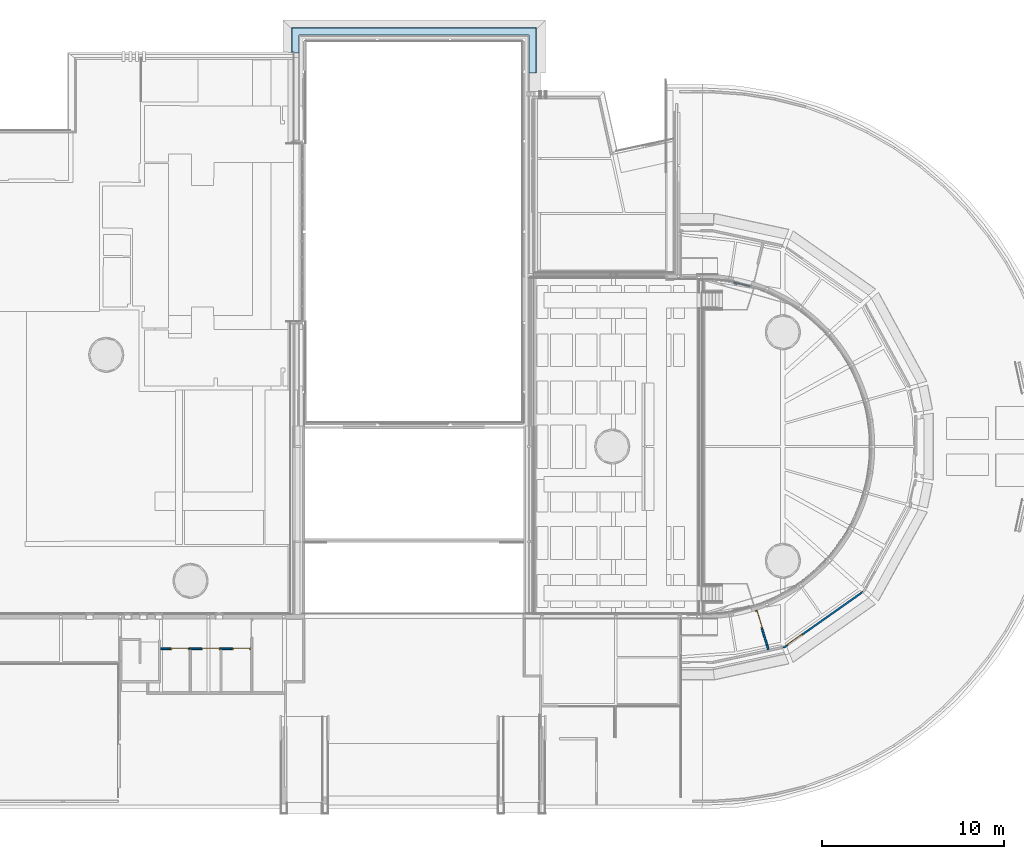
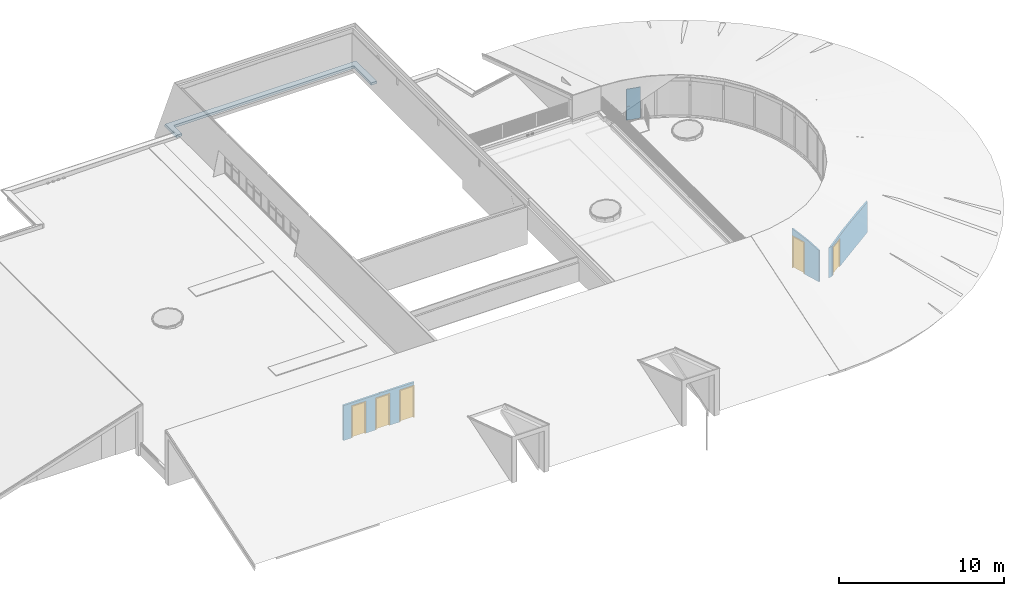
# One storey, part 46 of 66: 5 doors, 3 walls, 1 plate, 1 slab, 5 openings, 1 element without a shape of its own.
"""IFC2X3 building model written with IfcOpenShell, lengths in millimetres."""

from ifc_helpers import new_model, entity, si_unit, converted_unit, derived_unit, direction, frame, frame_2d, origin, place, context, subcontext, project, spatial, rectangle, extrude, faceted_brep, source, transform, mapped, material, material_list, layer, layer_set, type_object, type_shapes, element, fill, aggregate, save


model = new_model("IFC2X3")

# Units and contexts
model_context = context("Model", 3, precision=0.01, world=origin(), true_north=direction((6.12303176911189e-17, 1.0)))
body_context = subcontext(model_context, "Body", "Model", "MODEL_VIEW")
ifc_project = project(units=[si_unit("LENGTHUNIT", "METRE", prefix="MILLI"), si_unit("AREAUNIT", "SQUARE_METRE"), si_unit("VOLUMEUNIT", "CUBIC_METRE"), converted_unit("PLANEANGLEUNIT", "DEGREE", entity("IfcRatioMeasure", 0.0174532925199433), si_unit("PLANEANGLEUNIT", "RADIAN"), dimensions=[0, 0, 0, 0, 0, 0, 0]), si_unit("MASSUNIT", "GRAM", prefix="KILO"), derived_unit("MASSDENSITYUNIT", [(si_unit("MASSUNIT", "GRAM", prefix="KILO"), 1), (si_unit("LENGTHUNIT", "METRE"), -3)]), derived_unit("MOMENTOFINERTIAUNIT", [(si_unit("LENGTHUNIT", "METRE"), 4)]), si_unit("TIMEUNIT", "SECOND"), si_unit("FREQUENCYUNIT", "HERTZ"), si_unit("THERMODYNAMICTEMPERATUREUNIT", "DEGREE_CELSIUS"), derived_unit("THERMALTRANSMITTANCEUNIT", [(si_unit("MASSUNIT", "GRAM", prefix="KILO"), 1), (si_unit("THERMODYNAMICTEMPERATUREUNIT", "KELVIN"), -1), (si_unit("TIMEUNIT", "SECOND"), -3)]), derived_unit("VOLUMETRICFLOWRATEUNIT", [(si_unit("LENGTHUNIT", "METRE"), 3), (si_unit("TIMEUNIT", "SECOND"), -1)]), si_unit("ELECTRICCURRENTUNIT", "AMPERE"), si_unit("ELECTRICVOLTAGEUNIT", "VOLT"), si_unit("POWERUNIT", "WATT"), si_unit("FORCEUNIT", "NEWTON", prefix="KILO"), si_unit("ILLUMINANCEUNIT", "LUX"), si_unit("LUMINOUSFLUXUNIT", "LUMEN"), si_unit("LUMINOUSINTENSITYUNIT", "CANDELA"), derived_unit("USERDEFINED", [(si_unit("MASSUNIT", "GRAM", prefix="KILO"), -1), (si_unit("LENGTHUNIT", "METRE"), -2), (si_unit("TIMEUNIT", "SECOND"), 3), (si_unit("LUMINOUSFLUXUNIT", "LUMEN"), 1)]), derived_unit("LINEARVELOCITYUNIT", [(si_unit("LENGTHUNIT", "METRE"), 1), (si_unit("TIMEUNIT", "SECOND"), -1)]), si_unit("PRESSUREUNIT", "PASCAL"), derived_unit("USERDEFINED", [(si_unit("LENGTHUNIT", "METRE"), -2), (si_unit("MASSUNIT", "GRAM", prefix="KILO"), 1), (si_unit("TIMEUNIT", "SECOND"), -2)]), derived_unit("LINEARFORCEUNIT", [(si_unit("MASSUNIT", "GRAM", prefix="KILO"), 1), (si_unit("LENGTHUNIT", "METRE"), 1), (si_unit("TIMEUNIT", "SECOND"), -2), (si_unit("LENGTHUNIT", "METRE"), -1)]), derived_unit("PLANARFORCEUNIT", [(si_unit("MASSUNIT", "GRAM", prefix="KILO"), 1), (si_unit("LENGTHUNIT", "METRE"), 1), (si_unit("TIMEUNIT", "SECOND"), -2), (si_unit("LENGTHUNIT", "METRE"), -2)])], contexts=[model_context])

# Site, building, storey
site_placement = place(None, origin())
site = spatial("IfcSite", under=ifc_project, at=site_placement, Name="Default", CompositionType="ELEMENT")
building_placement = place(site_placement, origin())
building = spatial("IfcBuilding", under=site, at=building_placement, Name="-", CompositionType="ELEMENT")
storey_placement = place(building_placement, frame((0.0, 0.0, 3070.0)))
storey = spatial("IfcBuildingStorey", under=building, at=storey_placement, Name="01 eerste verdieping", CompositionType="ELEMENT", Elevation=3070.00000000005)

# Slab
slab_type = type_object("IfcSlabType", Name="Floor:NLRS_23_FL_basisvloer 180mm_gen_aly", PredefinedType="FLOOR")
slab_placement = place(storey_placement, origin())
element("IfcSlab", 1, at=slab_placement, inside=storey, type_object=slab_type, Name="Floor:NLRS_23_FL_basisvloer 180mm_gen_aly", ObjectType="Floor:NLRS_23_FL_basisvloer 180mm_gen_aly", PredefinedType="FLOOR", context=body_context, shape_type="Brep", body=[
    faceted_brep([(28454.0, 42225.3202504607, 65.0), (28454.0, 41238.7541561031, 65.0), (28044.0, 41238.7541561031, 65.0), (28044.0, 42655.3202504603, 65.0), (41513.0668104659, 42655.3202504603, 65.0), (41513.0668104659, 40131.8575638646, 65.0), (41093.0668104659, 40131.8575638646, 65.0), (41093.0668104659, 42225.3202504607, 65.0), (28454.0, 41238.7541561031, 245.0), (28454.0, 42225.3202504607, 245.0), (41093.0668104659, 42225.3202504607, 245.0), (41093.0668104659, 40131.8575638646, 245.0), (41477.807807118, 40131.8575638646, 245.0), (41477.807807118, 42623.6280575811, 245.0), (28076.1921928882, 42623.6280575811, 245.0), (28076.1921928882, 41238.7541561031, 245.0), (28052.5860830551, 41238.7541561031, 130.0), (28044.0, 41238.7541561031, 130.0), (28044.0, 41255.8202504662, 130.0), (28044.0, 41255.8202504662, 88.171864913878), (28044.0, 42655.3202504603, 88.1718649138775), (28044.5000000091, 42655.3202504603, 90.6076750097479), (41509.4999999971, 42655.3202504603, 90.6076750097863), (41513.0668104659, 42655.3202504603, 73.2315293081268), (41513.0668104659, 40131.8575638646, 73.2315293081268), (28052.5860830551, 41255.8202504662, 130.0)], [[[0, 1, 2, 3, 4, 5, 6, 7]], [[8, 9, 10, 11, 12, 13, 14, 15]], [[1, 0, 9, 8]], [[2, 1, 8, 15, 16, 17]], [[3, 2, 17, 18, 19, 20]], [[4, 3, 20, 21, 22, 23]], [[5, 4, 23, 24]], [[7, 6, 11, 10]], [[0, 7, 10, 9]], [[22, 13, 12, 24, 23]], [[13, 22, 21, 14]], [[14, 21, 20, 19, 25, 16, 15]], [[6, 5, 24, 12, 11]], [[16, 25, 18, 17]], [[25, 19, 18]]]),
])

# Curtain wall, plate
curtain_wall_type = type_object("IfcCurtainWallType", Name="Curtain Wall:NLRS_31_WIN_UN_houten kozijn vrij indeelbaar_gen_aly", PredefinedType="NOTDEFINED")
curtain_wall_placement = place(storey_placement, frame((0.0, 0.0, -3070.0)))
curtain_wall = element("IfcCurtainWall", 2, at=curtain_wall_placement, inside=storey, type_object=curtain_wall_type, Name="Curtain Wall:NLRS_31_WIN_UN_houten kozijn vrij indeelbaar_gen_aly", ObjectType="Curtain Wall:NLRS_31_WIN_UN_houten kozijn vrij indeelbaar_gen_aly")
ifc_material_1 = material(Name="NLRS_h4_aluminium")
ifc_material_2 = material(Name="AL_31_KozijnHout hardhout Antraciet")
ifc_material_list_1 = material_list([ifc_material_1, ifc_material_2])
ifc_material_list_2 = material_list([ifc_material_1, ifc_material_2])
plate_type = type_object("IfcPlateType", Name="NLRS_31_CWP_achterdeur zonder glas_gen_aly:31_Achterdeur zonder glas antraciet", PredefinedType="CURTAIN_PANEL", material=ifc_material_list_2)
shared_shape_1 = source(origin(), body_context, "Body", "Brep", [
    faceted_brep([(-419.704819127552, -52.035547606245, 1041.33974596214), (-424.704819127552, -52.035547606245, 1050.0), (-427.204819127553, -52.035547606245, 1028.34936490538), (-409.704819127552, -52.035547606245, 1041.33974596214), (-430.329819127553, -52.035547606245, 1033.76202367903), (-433.454819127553, -52.035547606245, 1039.17468245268), (-436.579819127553, -52.035547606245, 1044.58734122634), (-439.704819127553, -52.035547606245, 1050.0), (-419.704819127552, -52.035547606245, 1058.66025403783), (-437.099872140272, -52.035547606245, 1054.51190053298), (-434.49492515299, -52.035547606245, 1059.02380106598), (-430.849872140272, -52.035547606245, 1065.33721808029), (-427.204819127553, -52.035547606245, 1071.6506350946), (-409.704819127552, -52.035547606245, 1058.66025403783), (-420.954819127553, -52.035547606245, 1071.6506350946), (-414.704819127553, -52.035547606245, 1071.6506350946), (-408.454819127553, -52.035547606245, 1071.6506350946), (-402.204819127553, -52.035547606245, 1071.6506350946), (-399.079819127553, -52.035547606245, 1066.23797632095), (-395.954819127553, -52.035547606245, 1060.82531754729), (-392.829819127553, -52.035547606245, 1055.41265877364), (-389.704819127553, -52.035547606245, 1050.0), (-404.704819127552, -52.035547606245, 1050.0), (-402.204819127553, -52.035547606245, 1028.34936490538), (-398.559766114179, -52.035547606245, 1034.66278192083), (-394.914713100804, -52.035547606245, 1040.97619893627), (-392.309766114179, -52.035547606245, 1045.48809946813), (-420.954819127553, -52.035547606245, 1028.34936490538), (-414.704819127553, -52.035547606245, 1028.34936490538), (-408.454819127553, -52.035547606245, 1028.34936490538), (-419.704819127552, -44.0, 1058.66025403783), (-424.704819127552, -44.0, 1050.0), (-427.204819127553, -44.0, 1071.6506350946), (-409.704819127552, -44.0, 1058.66025403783), (-430.329819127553, -44.0, 1066.23797632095), (-433.454819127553, -44.0, 1060.82531754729), (-436.579819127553, -44.0, 1055.41265877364), (-439.704819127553, -44.0, 1050.0), (-419.704819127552, -44.0, 1041.33974596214), (-437.099872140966, -44.0, 1045.4880994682), (-433.454819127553, -44.0, 1039.17468245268), (-430.329819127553, -44.0, 1033.76202367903), (-427.204819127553, -44.0, 1028.34936490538), (-409.704819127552, -44.0, 1041.33974596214), (-420.954819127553, -44.0, 1028.34936490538), (-414.704819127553, -44.0, 1028.34936490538), (-408.454819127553, -44.0, 1028.34936490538), (-402.204819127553, -44.0, 1028.34936490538), (-399.079819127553, -44.0, 1033.76202367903), (-395.954819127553, -44.0, 1039.17468245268), (-392.829819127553, -44.0, 1044.58734122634), (-389.704819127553, -44.0, 1050.0), (-404.704819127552, -44.0, 1050.0), (-402.204819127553, -44.0, 1071.6506350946), (-399.079819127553, -44.0, 1066.23797632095), (-395.954819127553, -44.0, 1060.82531754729), (-392.309766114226, -44.0, 1054.51190053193), (-420.954819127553, -44.0, 1071.6506350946), (-414.704819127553, -44.0, 1071.6506350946), (-408.454819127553, -44.0, 1071.6506350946)], [[[0, 1, 2]], [[3, 0, 2]], [[1, 4, 2]], [[1, 5, 4]], [[1, 6, 5]], [[1, 7, 6]], [[7, 1, 8]], [[8, 9, 7]], [[8, 10, 9]], [[8, 11, 10]], [[8, 12, 11]], [[13, 12, 8]], [[13, 14, 12]], [[13, 15, 14]], [[13, 16, 15]], [[13, 17, 16]], [[13, 18, 17]], [[13, 19, 18]], [[13, 20, 19]], [[13, 21, 20]], [[13, 22, 21]], [[22, 3, 23]], [[22, 23, 24]], [[22, 24, 25]], [[22, 25, 26]], [[22, 26, 21]], [[3, 2, 27]], [[3, 27, 28]], [[3, 28, 29]], [[3, 29, 23]], [[30, 31, 32]], [[33, 30, 32]], [[31, 34, 32]], [[31, 35, 34]], [[31, 36, 35]], [[31, 37, 36]], [[37, 31, 38]], [[38, 39, 37]], [[38, 40, 39]], [[38, 41, 40]], [[38, 42, 41]], [[43, 42, 38]], [[43, 44, 42]], [[43, 45, 44]], [[43, 46, 45]], [[43, 47, 46]], [[43, 48, 47]], [[43, 49, 48]], [[43, 50, 49]], [[43, 51, 50]], [[43, 52, 51]], [[52, 33, 53]], [[52, 53, 54]], [[52, 54, 55]], [[52, 55, 56]], [[52, 56, 51]], [[33, 32, 57]], [[33, 57, 58]], [[33, 58, 59]], [[33, 59, 53]], [[24, 23, 47, 48, 49, 50, 51, 21, 26, 25]], [[40, 41, 42, 2, 4, 5, 6, 7, 37, 39]], [[27, 2, 42, 44, 45, 46, 47, 23, 29, 28]], [[11, 12, 32, 34, 35, 36, 37, 7, 9, 10]], [[55, 54, 53, 17, 18, 19, 20, 21, 51, 56]], [[16, 17, 53, 59, 58, 57, 32, 12, 14, 15]], [[1, 0, 38, 31]], [[0, 3, 43, 38]], [[3, 22, 52, 43]], [[22, 13, 33, 52]], [[13, 8, 30, 33]], [[8, 1, 31, 30]]]),
    faceted_brep([(-409.704819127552, -44.0, 1041.33974596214), (-419.704819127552, -44.0, 1041.33974596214), (-424.704819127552, -44.0, 1050.0), (-419.704819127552, -44.0, 1058.66025403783), (-409.704819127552, -44.0, 1058.66025403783), (-404.704819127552, -44.0, 1050.0), (-409.704819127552, -89.0, 1058.66025403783), (-404.704819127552, -84.0, 1050.0), (-419.704819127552, -99.0, 1058.66025403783), (-264.704819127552, -99.0, 1058.66025403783), (-264.704819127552, -89.0, 1058.66025403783), (-424.704819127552, -104.0, 1050.0), (-419.704819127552, -99.0, 1041.33974596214), (-409.704819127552, -89.0, 1041.33974596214), (-264.704819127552, -89.0, 1041.33974596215), (-264.704819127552, -99.0, 1041.33974596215), (-264.704819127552, -104.0, 1050.0), (-264.704819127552, -84.0, 1050.0)], [[[0, 1, 2, 3, 4, 5]], [[4, 6, 7, 5]], [[4, 3, 8, 9, 10, 6]], [[2, 11, 8, 3]], [[2, 1, 12, 11]], [[1, 0, 13, 14, 15, 12]], [[0, 5, 7, 13]], [[10, 9, 16, 15, 14, 17]], [[7, 6, 10, 17]], [[8, 11, 16, 9]], [[12, 15, 16, 11]], [[7, 17, 14, 13]]]),
    faceted_brep([(449.70481912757, -44.0, 0.0), (449.70481912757, -44.0, 2303.0), (-449.704819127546, -44.0, 2303.0), (-449.704819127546, -44.0, 0.0), (449.70481912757, 10.0, 0.0), (449.70481912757, 10.0, 2303.0), (-449.704819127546, 10.0, 2303.0), (-449.704819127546, 10.0, 0.0)], [[[0, 1, 2, 3]], [[1, 0, 4, 5]], [[3, 2, 6, 7]], [[0, 3, 7, 4]], [[4, 7, 6, 5]], [[2, 1, 5, 6]]]),
])
type_shapes(plate_type, [shared_shape_1])
plate_placement = place(curtain_wall_placement, frame((52801.3404187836, 28560.6042504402, 3572.0), z_axis=(0.0, 0.0, 1.0), x_axis=(0.972188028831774, -0.234201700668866, 0.0)))
plate = element("IfcPlate", 3, at=plate_placement, type_object=plate_type, material=ifc_material_list_1, Name="NLRS_31_CWP_achterdeur zonder glas_gen_aly:31_Achterdeur zonder glas antraciet", ObjectType="NLRS_31_CWP_achterdeur zonder glas_gen_aly:31_Achterdeur zonder glas antraciet", context=body_context, shape_type="MappedRepresentation", body=[
    mapped(shared_shape_1, transform((0.0, 0.0, 0.0), scale=1.0)),
])
aggregate(curtain_wall, [plate])

# Wall, opening, door
ifc_material_3 = material(Name="NLRS_f7_gipsplaat_gen")
ifc_layer_1 = layer(ifc_material_3, 12.5)
ifc_material_4 = material(Name="NLRS_m1_isolatie")
ifc_layer_2 = layer(ifc_material_4, 75.0)
ifc_layer_3 = layer(ifc_material_3, 12.5)
ifc_layer_set = layer_set([ifc_layer_1, ifc_layer_2, ifc_layer_3], Name="Basic Wall:NLRS_21_WA_Metalstud 100mm")
wall_type = type_object("IfcWallType", Name="Basic Wall:NLRS_21_WA_Metalstud 100mm", PredefinedType="STANDARD", material=ifc_layer_set)
wall_1_placement = place(storey_placement, frame((53598.5331670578, 10620.2370190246, 100.0), z_axis=(0.0, 0.0, 1.0), x_axis=(0.292371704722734, -0.956304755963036, 0.0)))
wall_1 = element("IfcWall", 4, at=wall_1_placement, inside=storey, type_object=wall_type, Name="Basic Wall:NLRS_21_WA_Metalstud 100mm", ObjectType="Basic Wall:NLRS_21_WA_Metalstud 100mm", context=body_context, shape_type="Brep", body=[
    faceted_brep([(2249.37940564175, -50.0, 0.0), (1041.37255009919, -50.0, 0.0), (1041.37255009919, 50.0, 0.0), (2257.79607976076, 50.0, 0.0), (7.37255009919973, -50.0, 0.0), (2.0372101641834, -50.0, 0.0), (1.15064400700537, 0.00268991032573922, 0.0), (0.0, 50.0, 0.0), (7.37255009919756, 50.0, 0.0), (7.37255009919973, -50.0, 2392.0), (1041.37255009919, -50.0, 2392.0), (2249.37940564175, -50.0, 2316.28674091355), (1737.21595229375, -50.0, 2482.6857975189), (1327.48493181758, -50.0, 2615.80424267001), (2.0372101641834, -50.0, 2900.78768898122), (2257.79607976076, 50.0, 2313.01776874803), (1041.37255009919, 50.0, 2392.0), (7.37255009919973, 50.0, 2392.0), (0.0, 50.0, 2901.22570789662), (1322.19957395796, 50.0, 2616.94064320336), (1841.97582885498, 50.0, 2448.09591302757), (1.15064400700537, 0.00268991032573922, 2900.9783088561), (1325.18480930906, 0.0101772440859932, 2616.29879015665), (2253.58760924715, -0.00158559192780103, 2314.6868526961)], [[[0, 1, 2, 3]], [[4, 5, 6, 7, 8]], [[5, 4, 9, 10, 1, 0, 11, 12, 13, 14]], [[15, 3, 2, 16, 17, 8, 7, 18, 19, 20]], [[6, 5, 14, 21]], [[21, 18, 7, 6]], [[2, 1, 10, 16]], [[16, 10, 9, 17]], [[8, 17, 9, 4]], [[14, 13, 22, 19, 18, 21]], [[19, 22, 20]], [[23, 15, 20]], [[20, 22, 12]], [[12, 23, 20]], [[11, 23, 12]], [[12, 22, 13]], [[0, 3, 15, 23, 11]]]),
])
opening_1_placement = place(wall_1_placement, frame((7.37255009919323, -50.0, -70.0)))
opening_1 = element("IfcOpeningElement", 5, at=opening_1_placement, cuts=wall_1, Name="AL_32.i_Binnenkozijn-enkeledeur_Rechtsdraaiend:Merk a:1", ObjectType="Opening", context=body_context, shape_type="SweptSolid", body=[
    extrude(rectangle(XDim=2462.00000000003, YDim=1034.0, at=frame_2d((1231.00000000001, 516.999999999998), x_axis=(1.0, 0.0))), frame((0.0, 0.0, 0.0), z_axis=(0.0, 1.0, 0.0), x_axis=(0.0, 0.0, 1.0)), (0.0, 0.0, 1.0), 100.0),
])
ifc_material_5 = material(Name="NLRS_i3_hout_Loofhout (hardhout) RAL 9002")
ifc_material_6 = material(Name="31_Glas")
ifc_material_7 = material(Name="<Unnamed>")
ifc_material_list_3 = material_list([ifc_material_6, ifc_material_7, ifc_material_7, ifc_material_5])
door_style_1 = type_object("IfcDoorStyle", Name="AL_32.i_Binnenkozijn-enkeledeur_Rechtsdraaiend:Merk a", ConstructionType="NOTDEFINED", OperationType="SINGLE_SWING_RIGHT", ParameterTakesPrecedence=False, Sizeable=False, material=ifc_material_list_3)
shared_shape_2 = source(origin(), body_context, "Body", "Brep", [
    faceted_brep([(982.0, 40.0, 95.0), (52.0, 40.0, 95.0), (52.0, 40.0, 2410.0), (982.0, 40.0, 2410.0), (982.0, 0.0, 95.0), (52.0, 0.0, 95.0), (52.0, 0.0, 2410.0), (982.0, 0.0, 2410.0)], [[[0, 1, 2, 3]], [[1, 0, 4, 5]], [[2, 1, 5, 6]], [[0, 3, 7, 4]], [[4, 7, 6, 5]], [[3, 2, 6, 7]]]),
    faceted_brep([(984.0, -7.0, 70.0), (984.0, 42.0, 70.0), (967.0, 42.0, 70.0), (967.0, 107.0, 70.0), (1034.0, 107.0, 70.0), (1034.0, 77.0, 70.0), (1025.0, 77.0, 70.0), (1025.0, 23.0, 70.0), (1034.0, 23.0, 70.0), (1034.0, -7.0, 70.0), (984.0, -7.0, 2412.0), (984.0, 42.0, 2412.0), (50.0, 42.0, 2412.0), (50.0, 42.0, 70.0), (67.0, 42.0, 70.0), (67.0, 42.0, 2395.0), (967.0, 42.0, 2395.0), (967.0, 107.0, 2395.0), (67.0, 107.0, 2395.0), (67.0, 107.0, 70.0), (0.0, 107.0, 70.0), (0.0, 107.0, 2462.0), (1034.0, 107.0, 2462.0), (1034.0, 77.0, 2462.0), (0.0, 77.0, 2462.0), (0.0, 77.0, 70.0), (9.0, 77.0, 70.0), (9.0, 77.0, 2453.0), (1025.0, 77.0, 2453.0), (1025.0, 23.0, 2453.0), (9.0, 23.0, 2453.0), (9.0, 23.0, 70.0), (0.0, 23.0, 70.0), (0.0, 23.0, 2462.0), (1034.0, 23.0, 2462.0), (1034.0, -7.0, 2462.0), (0.0, -7.0, 2462.0), (0.0, -7.0, 70.0), (50.0, -7.0, 70.0), (50.0, -7.0, 2412.0)], [[[0, 1, 2, 3, 4, 5, 6, 7, 8, 9]], [[1, 0, 10, 11]], [[2, 1, 11, 12, 13, 14, 15, 16]], [[3, 2, 16, 17]], [[4, 3, 17, 18, 19, 20, 21, 22]], [[5, 4, 22, 23]], [[6, 5, 23, 24, 25, 26, 27, 28]], [[7, 6, 28, 29]], [[8, 7, 29, 30, 31, 32, 33, 34]], [[9, 8, 34, 35]], [[0, 9, 35, 36, 37, 38, 39, 10]], [[38, 37, 32, 31, 26, 25, 20, 19, 14, 13]], [[36, 33, 32, 37]], [[30, 27, 26, 31]], [[24, 21, 20, 25]], [[18, 15, 14, 19]], [[12, 39, 38, 13]], [[17, 16, 15, 18]], [[23, 22, 21, 24]], [[35, 34, 33, 36]], [[11, 10, 39, 12]], [[29, 28, 27, 30]]]),
])
type_shapes(door_style_1, [shared_shape_2])
door_1_placement = place(opening_1_placement, frame((1034.0, 100.0, 0.0), z_axis=(0.0, 0.0, 1.0), x_axis=(-1.0, 0.0, 0.0)))
door_1 = element("IfcDoor", 6, at=door_1_placement, inside=storey, type_object=door_style_1, material=ifc_material_5, Name="AL_32.i_Binnenkozijn-enkeledeur_Rechtsdraaiend:Merk a", ObjectType="AL_32.i_Binnenkozijn-enkeledeur_Rechtsdraaiend:Merk a", OverallHeight=2462.00000000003, OverallWidth=1033.99999999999, context=body_context, shape_type="MappedRepresentation", body=[
    mapped(shared_shape_2, transform((0.0, 0.0, 0.0), scale=1.0)),
])
fill(opening_1, door_1)

wall_2_placement = place(storey_placement, frame((54958.1422252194, 8467.09334518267, 100.0), z_axis=(0.0, 0.0, 1.0), x_axis=(0.817088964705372, 0.576511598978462, 0.0)))
wall_2 = element("IfcWall", 7, at=wall_2_placement, inside=storey, type_object=wall_type, Name="Basic Wall:NLRS_21_WA_Metalstud 100mm", ObjectType="Basic Wall:NLRS_21_WA_Metalstud 100mm", context=body_context, shape_type="Brep", body=[
    faceted_brep([(5365.09712216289, -50.0, 0.0), (1434.68749403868, -50.0, 0.0), (1434.68749403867, 50.0, 0.0), (5570.0607364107, 50.0, 0.0), (400.687494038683, -50.0, 0.0), (235.395377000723, -50.0, 0.0), (0.0, 50.0, 0.0), (255.755710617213, 50.0, 0.0), (400.687494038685, 50.0, 0.0), (400.687494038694, -50.0, 2092.0), (1434.68749403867, -50.0, 2092.0), (5365.09712216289, -50.0, 2255.7201248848), (5008.80733672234, -50.0, 2265.89748171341), (4652.51755128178, -50.0, 2276.07483854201), (3939.93798040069, -50.0, 2296.42955219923), (3227.35840951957, -50.0, 2316.78426585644), (2871.06862407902, -50.0, 2326.96162268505), (2514.77883863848, -50.0, 2337.13897951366), (2229.85590593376, -50.0, 2325.13905931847), (1944.93297322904, -50.0, 2313.13913912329), (1375.08710781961, -50.0, 2289.13929873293), (805.241242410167, -50.0, 2265.13945834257), (235.395377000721, -50.0, 2241.13961795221), (3976.54524828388, 50.0, 2355.61452902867), (4693.44612810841, 50.0, 2318.47981701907), (5131.75343225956, 50.0, 2295.77595938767), (5350.90708433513, 50.0, 2284.42403057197), (5460.48391037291, 50.0, 2278.74806616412), (5570.06073641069, 50.0, 2273.07210175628), (1434.6874940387, 50.0, 2092.0), (400.687494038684, 50.0, 2092.0), (0.0, 50.0, 2254.8576159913), (127.88564860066, 50.0, 2264.78499739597), (255.755710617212, 50.0, 2274.28821552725), (654.115689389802, 50.0, 2294.74359020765), (1052.4756681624, 50.0, 2315.19896488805), (1450.83564693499, 50.0, 2335.65433956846), (1849.19562570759, 50.0, 2356.10971424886), (2381.03303135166, 50.0, 2355.98591794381), (2646.9517341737, 50.0, 2355.92401979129), (2912.87043699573, 50.0, 2355.86212163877), (3444.70784263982, 50.0, 2355.73832533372), (5501.72944755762, 16.6617467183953, 2267.43682171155), (117.704432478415, -0.00286495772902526, 2248.21491759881)], [[[0, 1, 2, 3]], [[4, 5, 6, 7, 8]], [[5, 4, 9, 10, 1, 0, 11, 12, 13, 14, 15, 16, 17, 18, 19, 20, 21, 22]], [[23, 24, 25, 26, 27, 28, 3, 2, 29, 30, 8, 7, 6, 31, 32, 33, 34, 35, 36, 37, 38, 39, 40, 41]], [[26, 12, 11]], [[37, 19, 18]], [[21, 35, 34, 33]], [[23, 14, 24]], [[42, 27, 11]], [[41, 14, 23]], [[15, 41, 40]], [[42, 28, 27]], [[35, 20, 36]], [[27, 26, 11]], [[17, 39, 38]], [[22, 33, 32]], [[13, 12, 24, 14]], [[43, 22, 32]], [[31, 43, 32]], [[33, 22, 21]], [[25, 24, 12, 26]], [[18, 17, 38]], [[16, 39, 17]], [[36, 19, 37]], [[37, 18, 38]], [[40, 16, 15]], [[20, 35, 21]], [[19, 36, 20]], [[39, 16, 40]], [[14, 41, 15]], [[42, 11, 0, 3, 28]], [[31, 6, 5, 22, 43]], [[29, 2, 1, 10]], [[30, 29, 10, 9]], [[30, 9, 4, 8]]]),
])
opening_2_placement = place(wall_2_placement, frame((400.687494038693, -50.0, -50.0)))
opening_2 = element("IfcOpeningElement", 8, at=opening_2_placement, cuts=wall_2, Name="AL_32.i_Binnenkozijn-enkeledeur_Rechtsdraaiend:Merk a (2000mm hoog):1", ObjectType="Opening", context=body_context, shape_type="SweptSolid", body=[
    extrude(rectangle(XDim=2142.00000000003, YDim=1034.0, at=frame_2d((1071.00000000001, 516.999999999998), x_axis=(1.0, 0.0))), frame((0.0, 0.0, 0.0), z_axis=(0.0, 1.0, 0.0), x_axis=(0.0, 0.0, 1.0)), (0.0, 0.0, 1.0), 100.0),
])
ifc_material_list_4 = material_list([ifc_material_7, ifc_material_7, ifc_material_6, ifc_material_5])
door_style_2 = type_object("IfcDoorStyle", Name="AL_32.i_Binnenkozijn-enkeledeur_Rechtsdraaiend:Merk a (2000mm hoog)", ConstructionType="NOTDEFINED", OperationType="SINGLE_SWING_RIGHT", ParameterTakesPrecedence=False, Sizeable=False, material=ifc_material_list_4)
shared_shape_3 = source(origin(), body_context, "Body", "Brep", [
    faceted_brep([(982.0, 40.0, 75.0), (52.0, 40.0, 75.0), (52.0, 40.0, 2090.0), (982.0, 40.0, 2090.0), (982.0, 0.0, 75.0), (52.0, 0.0, 75.0), (52.0, 0.0, 2090.0), (982.0, 0.0, 2090.0)], [[[0, 1, 2, 3]], [[1, 0, 4, 5]], [[2, 1, 5, 6]], [[0, 3, 7, 4]], [[4, 7, 6, 5]], [[3, 2, 6, 7]]]),
    faceted_brep([(984.0, -7.0, 50.0), (984.0, 42.0, 50.0), (967.0, 42.0, 50.0), (967.0, 107.0, 50.0), (1034.0, 107.0, 50.0), (1034.0, 77.0, 50.0), (1025.0, 77.0, 50.0), (1025.0, 23.0, 50.0), (1034.0, 23.0, 50.0), (1034.0, -7.0, 50.0), (984.0, -7.0, 2092.0), (984.0, 42.0, 2092.0), (50.0, 42.0, 2092.0), (50.0, 42.0, 50.0), (67.0, 42.0, 50.0), (67.0, 42.0, 2075.0), (967.0, 42.0, 2075.0), (967.0, 107.0, 2075.0), (67.0, 107.0, 2075.0), (67.0, 107.0, 50.0), (0.0, 107.0, 50.0), (0.0, 107.0, 2142.0), (1034.0, 107.0, 2142.0), (1034.0, 77.0, 2142.0), (0.0, 77.0, 2142.0), (0.0, 77.0, 50.0), (9.0, 77.0, 50.0), (9.0, 77.0, 2133.0), (1025.0, 77.0, 2133.0), (1025.0, 23.0, 2133.0), (9.0, 23.0, 2133.0), (9.0, 23.0, 50.0), (0.0, 23.0, 50.0), (0.0, 23.0, 2142.0), (1034.0, 23.0, 2142.0), (1034.0, -7.0, 2142.0), (0.0, -7.0, 2142.0), (0.0, -7.0, 50.0), (50.0, -7.0, 50.0), (50.0, -7.0, 2092.0)], [[[0, 1, 2, 3, 4, 5, 6, 7, 8, 9]], [[1, 0, 10, 11]], [[2, 1, 11, 12, 13, 14, 15, 16]], [[3, 2, 16, 17]], [[4, 3, 17, 18, 19, 20, 21, 22]], [[5, 4, 22, 23]], [[6, 5, 23, 24, 25, 26, 27, 28]], [[7, 6, 28, 29]], [[8, 7, 29, 30, 31, 32, 33, 34]], [[9, 8, 34, 35]], [[0, 9, 35, 36, 37, 38, 39, 10]], [[38, 37, 32, 31, 26, 25, 20, 19, 14, 13]], [[36, 33, 32, 37]], [[30, 27, 26, 31]], [[24, 21, 20, 25]], [[18, 15, 14, 19]], [[12, 39, 38, 13]], [[17, 16, 15, 18]], [[23, 22, 21, 24]], [[35, 34, 33, 36]], [[11, 10, 39, 12]], [[29, 28, 27, 30]]]),
])
type_shapes(door_style_2, [shared_shape_3])
door_2_placement = place(opening_2_placement, frame((1034.0, 100.0, 0.0), z_axis=(0.0, 0.0, 1.0), x_axis=(-1.0, 0.0, 0.0)))
door_2 = element("IfcDoor", 9, at=door_2_placement, inside=storey, type_object=door_style_2, material=ifc_material_5, Name="AL_32.i_Binnenkozijn-enkeledeur_Rechtsdraaiend:Merk a (2000mm hoog)", ObjectType="AL_32.i_Binnenkozijn-enkeledeur_Rechtsdraaiend:Merk a (2000mm hoog)", OverallHeight=2142.00000000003, OverallWidth=1034.0, context=body_context, shape_type="MappedRepresentation", body=[
    mapped(shared_shape_3, transform((0.0, 0.0, 0.0), scale=1.0)),
])
fill(opening_2, door_2)

# Wall, openings, doors
wall_3_placement = place(storey_placement, frame((25822.6948343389, 8509.62409540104, 0.0), z_axis=(0.0, 0.0, 1.0), x_axis=(-1.0, 0.0, 0.0)))
wall_3 = element("IfcWall", 10, at=wall_3_placement, inside=storey, type_object=wall_type, Name="Basic Wall:NLRS_21_WA_Metalstud 100mm", ObjectType="Basic Wall:NLRS_21_WA_Metalstud 100mm", context=body_context, shape_type="Brep", body=[
    faceted_brep([(4414.0, -50.0, 0.0), (4964.0, -50.0, 0.0), (4964.0, -50.0, 2628.29613073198), (2401.25643991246, -50.0, 2628.29613073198), (2401.25643991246, -50.0, 2639.30494822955), (2271.25643991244, -50.0, 2639.30494822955), (2271.25643991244, -50.0, 2628.29613073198), (0.0, -50.0, 2628.29613073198), (0.0, -50.0, 2392.0), (1034.0, -50.0, 2392.0), (1034.0, -50.0, 0.0), (1690.0, -50.0, 0.0), (1690.0, -50.0, 2392.0), (2724.0, -50.0, 2392.0), (2724.0, -50.0, 0.0), (3380.0, -50.0, 0.0), (3380.0, -50.0, 2392.0), (4414.0, -50.0, 2392.0), (4964.0, 50.0, 0.0), (4414.0, 50.0, 0.0), (4414.0, 50.0, 2392.0), (3380.0, 50.0, 2392.0), (3380.0, 50.0, 0.0), (2724.0, 50.0, 0.0), (2724.0, 50.0, 2392.0), (1690.0, 50.0, 2392.0), (1690.0, 50.0, 0.0), (1034.0, 50.0, 0.0), (1034.0, 50.0, 2392.0), (0.0, 50.0, 2392.0), (0.0, 50.0, 2595.80416110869), (2271.25643991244, 50.0, 2595.80416110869), (2271.25643991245, 50.0, 2639.30494822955), (2401.25643991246, 50.0, 2639.30494822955), (2401.25643991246, 50.0, 2595.80416110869), (4964.0, 50.0, 2595.80416110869)], [[[0, 1, 2, 3, 4, 5, 6, 7, 8, 9, 10, 11, 12, 13, 14, 15, 16, 17]], [[18, 19, 20, 21, 22, 23, 24, 25, 26, 27, 28, 29, 30, 31, 32, 33, 34, 35]], [[26, 11, 10, 27]], [[5, 4, 33, 32]], [[1, 18, 35, 2]], [[29, 8, 7, 30]], [[21, 16, 15, 22]], [[16, 21, 20, 17]], [[17, 20, 19, 0]], [[25, 12, 11, 26]], [[12, 25, 24, 13]], [[13, 24, 23, 14]], [[28, 9, 8, 29]], [[9, 28, 27, 10]], [[34, 3, 2, 35]], [[3, 34, 33, 4]], [[31, 6, 5, 32]], [[6, 31, 30, 7]], [[22, 15, 14, 23]], [[18, 1, 0, 19]]]),
])
opening_3_placement = place(wall_3_placement, frame((4414.0, 50.0, -70.0)))
opening_3 = element("IfcOpeningElement", 11, at=opening_3_placement, cuts=wall_3, Name="AL_32.i_Binnenkozijn-enkeledeur_Linksdraaiend:Merk a.sp:1", ObjectType="Opening", context=body_context, shape_type="SweptSolid", body=[
    extrude(rectangle(XDim=2462.00000000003, YDim=1034.0, at=frame_2d((1231.00000000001, 516.999999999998), x_axis=(1.0, 0.0))), frame((0.0, 0.0, 0.0), z_axis=(0.0, -1.0, 0.0), x_axis=(0.0, 0.0, 1.0)), (0.0, 0.0, 1.0), 100.0),
])
opening_4_placement = place(wall_3_placement, frame((2724.0, 50.0, -70.0)))
opening_4 = element("IfcOpeningElement", 12, at=opening_4_placement, cuts=wall_3, Name="AL_32.i_Binnenkozijn-enkeledeur_Linksdraaiend:Merk a.sp:1", ObjectType="Opening", context=body_context, shape_type="SweptSolid", body=[
    extrude(rectangle(XDim=2462.00000000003, YDim=1034.0, at=frame_2d((1231.00000000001, 516.999999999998), x_axis=(1.0, 0.0))), frame((0.0, 0.0, 0.0), z_axis=(0.0, -1.0, 0.0), x_axis=(0.0, 0.0, 1.0)), (0.0, 0.0, 1.0), 100.0),
])
opening_5_placement = place(wall_3_placement, frame((1034.0, 50.0, -70.0)))
opening_5 = element("IfcOpeningElement", 13, at=opening_5_placement, cuts=wall_3, Name="AL_32.i_Binnenkozijn-enkeledeur_Linksdraaiend:Merk a.sp:1", ObjectType="Opening", context=body_context, shape_type="SweptSolid", body=[
    extrude(rectangle(XDim=2462.00000000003, YDim=1034.0, at=frame_2d((1231.00000000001, 516.999999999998), x_axis=(1.0, 0.0))), frame((0.0, 0.0, 0.0), z_axis=(0.0, -1.0, 0.0), x_axis=(0.0, 0.0, 1.0)), (0.0, 0.0, 1.0), 100.0),
])
ifc_material_list_5 = material_list([ifc_material_6, ifc_material_7, ifc_material_7, ifc_material_5])
door_style_3 = type_object("IfcDoorStyle", Name="AL_32.i_Binnenkozijn-enkeledeur_Linksdraaiend:Merk a.sp", ConstructionType="NOTDEFINED", OperationType="SINGLE_SWING_LEFT", ParameterTakesPrecedence=False, Sizeable=False, material=ifc_material_list_5)
shared_shape_4 = source(origin(), body_context, "Body", "Brep", [
    faceted_brep([(982.0, 40.0, 95.0), (52.0, 40.0, 95.0), (52.0, 40.0, 2410.0), (982.0, 40.0, 2410.0), (982.0, 0.0, 95.0), (52.0, 0.0, 95.0), (52.0, 0.0, 2410.0), (982.0, 0.0, 2410.0)], [[[0, 1, 2, 3]], [[1, 0, 4, 5]], [[2, 1, 5, 6]], [[0, 3, 7, 4]], [[4, 7, 6, 5]], [[3, 2, 6, 7]]]),
    faceted_brep([(984.0, -7.0, 70.0), (984.0, 42.0, 70.0), (967.0, 42.0, 70.0), (967.0, 107.0, 70.0), (1034.0, 107.0, 70.0), (1034.0, 77.0, 70.0), (1025.0, 77.0, 70.0), (1025.0, 23.0, 70.0), (1034.0, 23.0, 70.0), (1034.0, -7.0, 70.0), (984.0, -7.0, 2412.0), (984.0, 42.0, 2412.0), (50.0, 42.0, 2412.0), (50.0, 42.0, 70.0), (67.0, 42.0, 70.0), (67.0, 42.0, 2395.0), (967.0, 42.0, 2395.0), (967.0, 107.0, 2395.0), (67.0, 107.0, 2395.0), (67.0, 107.0, 70.0), (0.0, 107.0, 70.0), (0.0, 107.0, 2462.0), (1034.0, 107.0, 2462.0), (1034.0, 77.0, 2462.0), (0.0, 77.0, 2462.0), (0.0, 77.0, 70.0), (9.0, 77.0, 70.0), (9.0, 77.0, 2453.0), (1025.0, 77.0, 2453.0), (1025.0, 23.0, 2453.0), (9.0, 23.0, 2453.0), (9.0, 23.0, 70.0), (0.0, 23.0, 70.0), (0.0, 23.0, 2462.0), (1034.0, 23.0, 2462.0), (1034.0, -7.0, 2462.0), (0.0, -7.0, 2462.0), (0.0, -7.0, 70.0), (50.0, -7.0, 70.0), (50.0, -7.0, 2412.0)], [[[0, 1, 2, 3, 4, 5, 6, 7, 8, 9]], [[1, 0, 10, 11]], [[2, 1, 11, 12, 13, 14, 15, 16]], [[3, 2, 16, 17]], [[4, 3, 17, 18, 19, 20, 21, 22]], [[5, 4, 22, 23]], [[6, 5, 23, 24, 25, 26, 27, 28]], [[7, 6, 28, 29]], [[8, 7, 29, 30, 31, 32, 33, 34]], [[9, 8, 34, 35]], [[0, 9, 35, 36, 37, 38, 39, 10]], [[38, 37, 32, 31, 26, 25, 20, 19, 14, 13]], [[36, 33, 32, 37]], [[30, 27, 26, 31]], [[24, 21, 20, 25]], [[18, 15, 14, 19]], [[12, 39, 38, 13]], [[17, 16, 15, 18]], [[23, 22, 21, 24]], [[35, 34, 33, 36]], [[11, 10, 39, 12]], [[29, 28, 27, 30]]]),
])
type_shapes(door_style_3, [shared_shape_4])
door_3_placement = place(opening_3_placement, frame((-1034.0, -100.0, 0.0)))
door_3 = element("IfcDoor", 14, at=door_3_placement, inside=storey, type_object=door_style_3, material=ifc_material_5, Name="AL_32.i_Binnenkozijn-enkeledeur_Linksdraaiend:Merk a.sp", ObjectType="AL_32.i_Binnenkozijn-enkeledeur_Linksdraaiend:Merk a.sp", OverallHeight=2462.00000000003, OverallWidth=1034.0, context=body_context, shape_type="MappedRepresentation", body=[
    mapped(shared_shape_4, transform((0.0, 0.0, 0.0), scale=1.0)),
])
fill(opening_3, door_3)
door_4_placement = place(opening_4_placement, frame((-1034.0, -100.0, 0.0)))
door_4 = element("IfcDoor", 15, at=door_4_placement, inside=storey, type_object=door_style_3, material=ifc_material_5, Name="AL_32.i_Binnenkozijn-enkeledeur_Linksdraaiend:Merk a.sp", ObjectType="AL_32.i_Binnenkozijn-enkeledeur_Linksdraaiend:Merk a.sp", OverallHeight=2462.00000000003, OverallWidth=1034.0, context=body_context, shape_type="MappedRepresentation", body=[
    mapped(shared_shape_4, transform((0.0, 0.0, 0.0), scale=1.0)),
])
fill(opening_4, door_4)
door_5_placement = place(opening_5_placement, frame((-1034.0, -100.0, 0.0)))
door_5 = element("IfcDoor", 16, at=door_5_placement, inside=storey, type_object=door_style_3, material=ifc_material_5, Name="AL_32.i_Binnenkozijn-enkeledeur_Linksdraaiend:Merk a.sp", ObjectType="AL_32.i_Binnenkozijn-enkeledeur_Linksdraaiend:Merk a.sp", OverallHeight=2462.00000000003, OverallWidth=1034.0, context=body_context, shape_type="MappedRepresentation", body=[
    mapped(shared_shape_4, transform((0.0, 0.0, 0.0), scale=1.0)),
])
fill(opening_5, door_5)

save(model, "model.ifc")
